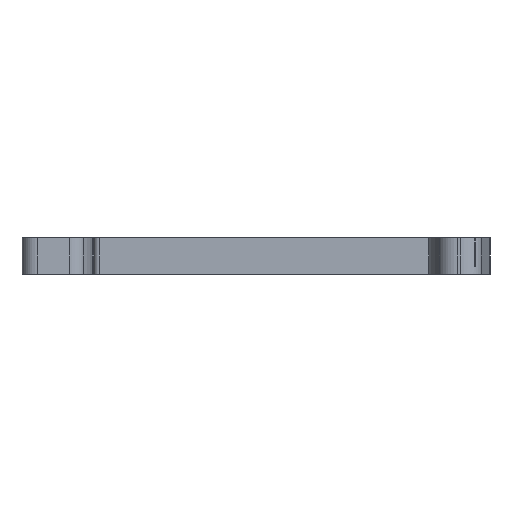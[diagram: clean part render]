
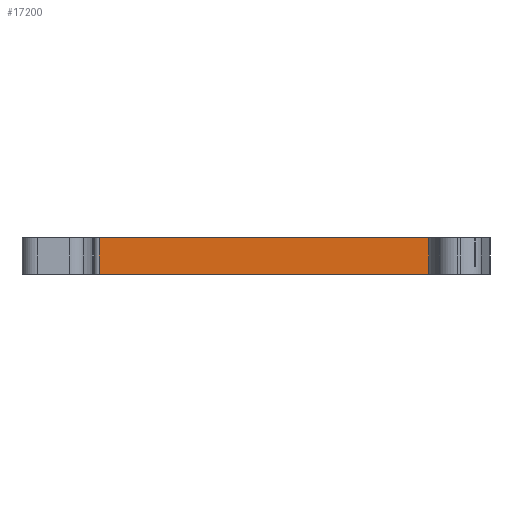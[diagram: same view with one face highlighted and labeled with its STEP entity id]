
A CAD part, front view. The second image highlights one B-rep face of the part: STEP entity #17200.
In plain terms, the highlighted planar face has unit normal (0, -1, 0).
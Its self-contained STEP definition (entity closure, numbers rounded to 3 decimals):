
#405=DIRECTION('',(-1.,0.,0.));
#406=VECTOR('',#405,33.053);
#407=CARTESIAN_POINT('',(33.053,0.,
0.));
#408=LINE('',#407,#406);
#2560=DIRECTION('',(1.,0.,0.));
#2561=VECTOR('',#2560,33.053);
#2562=CARTESIAN_POINT('',(0.,0.,
-3.5));
#2563=LINE('',#2562,#2561);
#4543=DIRECTION('',(0.,0.,-1.));
#4544=VECTOR('',#4543,3.5);
#4545=CARTESIAN_POINT('',(0.,0.,0.));
#4546=LINE('',#4545,#4544);
#4547=DIRECTION('',(0.,0.,1.));
#4548=VECTOR('',#4547,3.5);
#4549=CARTESIAN_POINT('',(33.053,0.,
-3.5));
#4550=LINE('',#4549,#4548);
#9428=CARTESIAN_POINT('',(33.053,0.,
0.));
#9429=VERTEX_POINT('',#9428);
#9430=CARTESIAN_POINT('',(0.,0.,0.));
#9431=VERTEX_POINT('',#9430);
#10081=CARTESIAN_POINT('',(0.,0.,-3.5));
#10082=VERTEX_POINT('',#10081);
#10083=CARTESIAN_POINT('',(33.053,0.,
-3.5));
#10084=VERTEX_POINT('',#10083);
#17188=CARTESIAN_POINT('',(33.153,0.,0.));
#17189=DIRECTION('',(0.,1.,0.));
#17190=DIRECTION('',(-1.,0.,0.));
#17191=AXIS2_PLACEMENT_3D('',#17188,#17189,#17190);
#17192=PLANE('',#17191);
#17193=ORIENTED_EDGE('',*,*,#14508,.F.);
#17194=ORIENTED_EDGE('',*,*,#17182,.F.);
#17195=ORIENTED_EDGE('',*,*,#12179,.F.);
#17197=ORIENTED_EDGE('',*,*,#17196,.F.);
#17198=EDGE_LOOP('',(#17193,#17194,#17195,#17197));
#17199=FACE_OUTER_BOUND('',#17198,.F.);
#17200=ADVANCED_FACE('',(#17199),#17192,.F.);
#12179=EDGE_CURVE('',#9429,#9431,#408,.T.);
#14508=EDGE_CURVE('',#10082,#10084,#2563,.T.);
#17182=EDGE_CURVE('',#9431,#10082,#4546,.T.);
#17196=EDGE_CURVE('',#10084,#9429,#4550,.T.);
